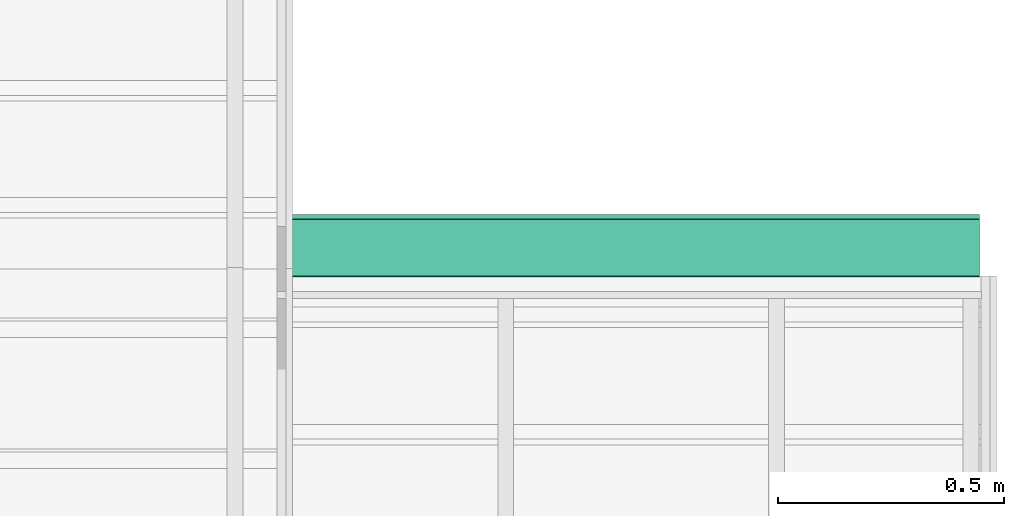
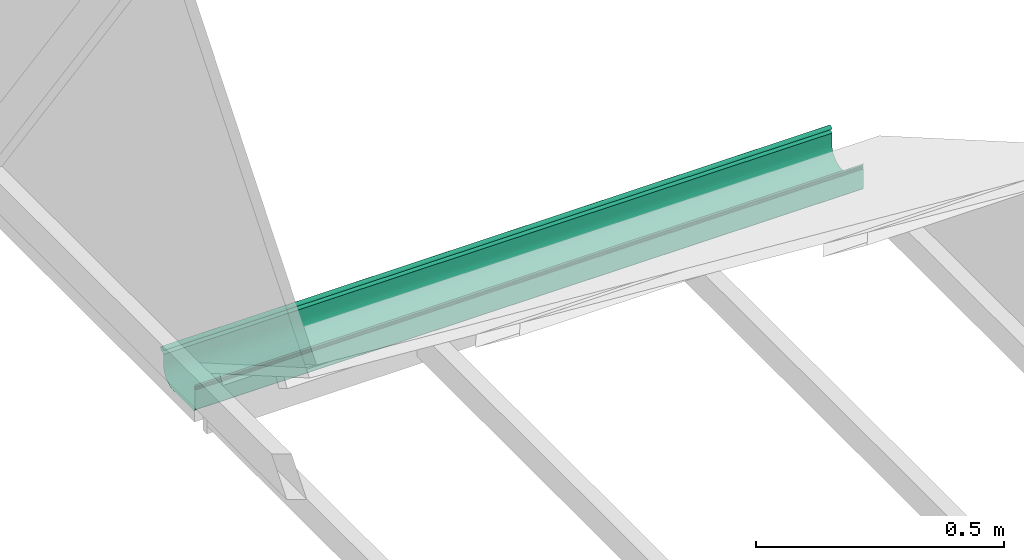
# One storey, part 12 of 12: 1 distribution element.
"""IFC2X3 building model written with IfcOpenShell, lengths in millimetres."""

import ifcopenshell
import ifcopenshell.guid

model = None  # the IFC model being written
_history = None  # IfcOwnerHistory: only IFC2X3 demands one
_inside = {}  # id of a spatial element -> (the spatial element, [elements in it])
_under = {}  # id of a project, library or spatial element -> (it, [spatial elements below it])
_declared = {}  # id of a project -> (the project, [libraries it declares])
_typed = {}  # id of a type object -> (the type object, [elements of that type])
_made_of = {}  # id of a material, layer set ... -> (it, [elements and type objects made of it])


def new_model(schema):
    """Start an empty IFC model of exactly this schema.

    Asked for "IFC4X3", IfcOpenShell would pick the latest addendum, in which some entities
    have other attributes; the version numbers below select the first issue.
    IFC2X3 requires an IfcOwnerHistory on every rooted entity: one is made here for all.
    """
    global model, _history
    if schema == "IFC4X3":
        model = ifcopenshell.file(schema_version=(4, 3, 0, 0))
    else:
        model = ifcopenshell.file(schema=schema)
    _inside.clear()
    _under.clear()
    _declared.clear()
    _typed.clear()
    _made_of.clear()
    _history = None
    if model.schema == "IFC2X3":
        org = make("IfcOrganization", Name="unknown")
        user = make(
            "IfcPersonAndOrganization",
            ThePerson=make("IfcPerson", FamilyName="unknown"),
            TheOrganization=org,
        )
        app = make(
            "IfcApplication",
            ApplicationDeveloper=org,
            Version="unknown",
            ApplicationFullName="unknown",
            ApplicationIdentifier="unknown",
        )
        _history = make(
            "IfcOwnerHistory",
            OwningUser=user,
            OwningApplication=app,
            ChangeAction="ADDED",
            CreationDate=0,
        )
    return model


def make(cls, **values):
    """One entity of the class cls with the attributes given. An attribute that is None is left unset."""
    return model.create_entity(
        cls, **{name: value for name, value in values.items() if value is not None}
    )


def entity(cls, *values):
    """Any entity or typed value of the class cls, its attributes in the order of the schema. None: left unset."""
    e = model.create_entity(cls)
    for i, value in enumerate(values):
        if value is not None:
            e[i] = value
    return e


def rooted(cls, **values):
    """An entity with a GlobalId (a new one), such as an element, a storey or a relation."""
    return make(cls, GlobalId=ifcopenshell.guid.new(), OwnerHistory=_history, **values)


def si_unit(unit_type, name, prefix=None):
    """IfcSIUnit, for example si_unit("LENGTHUNIT", "METRE", prefix="MILLI")."""
    return make("IfcSIUnit", UnitType=unit_type, Prefix=prefix, Name=name)


def converted_unit(unit_type, name, factor, base, dimensions=None, offset=None):
    """IfcConversionBasedUnit, such as the inch: factor (a typed value) times the base unit."""
    return make(
        "IfcConversionBasedUnit"
        if offset is None
        else "IfcConversionBasedUnitWithOffset",
        ConversionOffset=offset,
        Dimensions=None
        if dimensions is None
        else entity("IfcDimensionalExponents", *dimensions),
        UnitType=unit_type,
        Name=name,
        ConversionFactor=make(
            "IfcMeasureWithUnit", ValueComponent=factor, UnitComponent=base
        ),
    )


def money_unit(currency):
    """IfcMonetaryUnit."""
    return make("IfcMonetaryUnit", Currency=currency)


def assignment(units):
    """IfcUnitAssignment: the units of a project."""
    return None if units is None else make("IfcUnitAssignment", Units=units)


def point(xyz):
    """IfcCartesianPoint."""
    return None if xyz is None else make("IfcCartesianPoint", Coordinates=xyz)


def direction(xyz):
    """IfcDirection."""
    return None if xyz is None else make("IfcDirection", DirectionRatios=xyz)


def frame(location, z_axis=None, x_axis=None):
    """IfcAxis2Placement3D, a coordinate frame: its origin and axes. An axis left out is left unset."""
    return make(
        "IfcAxis2Placement3D",
        Location=point(location),
        Axis=direction(z_axis),
        RefDirection=direction(x_axis),
    )


def origin_with_axes():
    """The frame at (0, 0, 0) with the z axis (0, 0, 1) and the x axis (1, 0, 0) written out."""
    return frame((0.0, 0.0, 0.0), z_axis=(0.0, 0.0, 1.0), x_axis=(1.0, 0.0, 0.0))


def place(relative_to, where):
    """IfcLocalPlacement: puts the frame where relative to a parent placement (None: the world)."""
    return make(
        "IfcLocalPlacement", PlacementRelTo=relative_to, RelativePlacement=where
    )


def context(
    kind, dimensions, precision=None, world=None, true_north=None, identifier=None
):
    """IfcGeometricRepresentationContext, for example the 3D "Model" context."""
    return make(
        "IfcGeometricRepresentationContext",
        ContextIdentifier=identifier,
        ContextType=kind,
        CoordinateSpaceDimension=dimensions,
        Precision=precision,
        WorldCoordinateSystem=world,
        TrueNorth=true_north,
    )


def subcontext(parent, identifier, kind, view, scale=None):
    """IfcGeometricRepresentationSubContext, for example "Body" below "Model"."""
    return make(
        "IfcGeometricRepresentationSubContext",
        ContextIdentifier=identifier,
        ContextType=kind,
        ParentContext=parent,
        TargetScale=scale,
        TargetView=view,
    )


def project(units=None, contexts=None):
    """IfcProject with its units and contexts."""
    return rooted(
        "IfcProject",
        Name="project",
        RepresentationContexts=contexts,
        UnitsInContext=assignment(units),
    )


def spatial(cls, under=None, at=None, **own):
    """A site, building, storey or space (cls), placed at a placement, below another one or the project."""
    s = rooted(cls, ObjectPlacement=at, **own)
    if under is not None:
        _under.setdefault(under.id(), (under, []))[1].append(s)
    return s


def faces_of(points, faces, orient=None, outer=None):
    """IfcFace entities. A face is a list of loops; a loop is a list of indices into points, from 0.

    orient and outer hold one flag for each loop. By default every Orientation is true, the
    first loop of a face is its IfcFaceOuterBound and the others are IfcFaceBound.
    """
    made = []
    for i, loops in enumerate(faces):
        bounds = []
        for j, loop in enumerate(loops):
            is_outer = j == 0 if outer is None else outer[i][j]
            bounds.append(
                make(
                    "IfcFaceOuterBound" if is_outer else "IfcFaceBound",
                    Bound=make("IfcPolyLoop", Polygon=[points[k] for k in loop]),
                    Orientation=True if orient is None else orient[i][j],
                )
            )
        made.append(make("IfcFace", Bounds=bounds))
    return made


def open_shell(faces, orient=None, outer=None):
    """The faces of one IfcOpenShell. surface_model builds it on its shared points."""
    return ("IfcOpenShell", faces, orient, outer)


def surface_model(cls, points, shells):
    """IfcFaceBasedSurfaceModel or IfcShellBasedSurfaceModel (cls): surfaces that need not close."""
    shared = [point(p) for p in points]
    made = [make(c, CfsFaces=faces_of(shared, fs, o, b)) for c, fs, o, b in shells]
    if cls == "IfcFaceBasedSurfaceModel":
        return make(cls, FbsmFaces=made)
    return make(cls, SbsmBoundary=made)


def shape(context_of_items, identifier, shape_type, items):
    """IfcShapeRepresentation: the items that make up one representation, for example the "Body"."""
    return make(
        "IfcShapeRepresentation",
        ContextOfItems=context_of_items,
        RepresentationIdentifier=identifier,
        RepresentationType=shape_type,
        Items=items,
    )


def source(mapping_origin, context_of_items, identifier, shape_type, items):
    """IfcRepresentationMap: a shape defined once, which mapped items show again and again."""
    return make(
        "IfcRepresentationMap",
        MappingOrigin=mapping_origin,
        MappedRepresentation=shape(context_of_items, identifier, shape_type, items),
    )


def transform(
    local_origin,
    x_axis=None,
    y_axis=None,
    z_axis=None,
    scale=None,
    scale2=None,
    scale3=None,
    uniform=True,
):
    """IfcCartesianTransformationOperator3D, or its non-uniform kind. x_axis, y_axis, z_axis: its Axis1, 2, 3."""
    if uniform:
        return make(
            "IfcCartesianTransformationOperator3D",
            Axis1=direction(x_axis),
            Axis2=direction(y_axis),
            LocalOrigin=point(local_origin),
            Scale=scale,
            Axis3=direction(z_axis),
        )
    return make(
        "IfcCartesianTransformationOperator3DnonUniform",
        Axis1=direction(x_axis),
        Axis2=direction(y_axis),
        LocalOrigin=point(local_origin),
        Scale=scale,
        Axis3=direction(z_axis),
        Scale2=scale2,
        Scale3=scale3,
    )


def mapped(mapping_source, mapping_target):
    """IfcMappedItem: shows the shape of a source again, moved by a transform."""
    return make(
        "IfcMappedItem", MappingSource=mapping_source, MappingTarget=mapping_target
    )


def material(Name=None, Category=None):
    """IfcMaterial."""
    return make("IfcMaterial", Name=Name, Category=Category)


def made_of(thing, what):
    """Note that an element or type object is made of a material, layer set ...; save() writes the relation."""
    if what is not None:
        _made_of.setdefault(what.id(), (what, []))[1].append(thing)
    return thing


def type_object(cls, material=None, **own):
    """A type object (cls), such as IfcWallType, which elements share."""
    return made_of(rooted(cls, **own), material)


def element(
    cls,
    number,
    at=None,
    inside=None,
    cuts=None,
    type_object=None,
    material=None,
    context=None,
    identifier="Body",
    shape_type=None,
    held_by="IfcProductDefinitionShape",
    body=None,
    shapes=None,
    **own,
):
    """One element of the class cls, such as IfcWall. Its Tag is "e" and its number.

    at: its placement. inside: the storey or other place that contains it. cuts: it is an
    opening in that element (IfcRelVoidsElement). A single representation is given by context,
    identifier, shape_type and body (its items); several are given by shapes. held_by: the class
    of the entity that holds the representations. save() writes the other relations.
    """
    e = rooted(cls, Tag="e%d" % number, ObjectPlacement=at, **own)
    if body is not None:
        shapes = [shape(context, identifier, shape_type, body)]
    if shapes is not None:
        e.Representation = make(held_by, Representations=shapes)
    if inside is not None:
        _inside.setdefault(inside.id(), (inside, []))[1].append(e)
    if cuts is not None:
        rooted(
            "IfcRelVoidsElement", RelatingBuildingElement=cuts, RelatedOpeningElement=e
        )
    if type_object is not None:
        _typed.setdefault(type_object.id(), (type_object, []))[1].append(e)
    return made_of(e, material)


def aggregate(whole, parts):
    """IfcRelAggregates: a whole, such as a stair, and the parts it consists of."""
    return rooted("IfcRelAggregates", RelatingObject=whole, RelatedObjects=parts)


def save(model, path):
    """Write the relations noted so far, then the file.

    IfcRelAggregates (storeys below a building ...), IfcRelContainedInSpatialStructure (elements
    in a storey), IfcRelDefinesByType, IfcRelAssociatesMaterial and IfcRelDeclares: one each for
    every whole, place, type object, material and project.
    """
    for whole, parts in _under.values():
        aggregate(whole, parts)
    for where, things in _inside.values():
        rooted(
            "IfcRelContainedInSpatialStructure",
            RelatedElements=things,
            RelatingStructure=where,
        )
    for kind, things in _typed.values():
        rooted("IfcRelDefinesByType", RelatedObjects=things, RelatingType=kind)
    for what, things in _made_of.values():
        rooted("IfcRelAssociatesMaterial", RelatedObjects=things, RelatingMaterial=what)
    for by, libraries in _declared.values():
        rooted("IfcRelDeclares", RelatingContext=by, RelatedDefinitions=libraries)
    model.write(path)


model = new_model("IFC2X3")

# Units and contexts
model_context = context("Model", 3, precision=1e-05, world=origin_with_axes(), true_north=direction((0.0, 1.0)))
body_context = subcontext(model_context, "Body", "Model", "MODEL_VIEW")
ifc_project = project(units=[si_unit("LENGTHUNIT", "METRE", prefix="MILLI"), si_unit("AREAUNIT", "SQUARE_METRE"), si_unit("VOLUMEUNIT", "CUBIC_METRE"), converted_unit("PLANEANGLEUNIT", "DEGREE", entity("IfcPlaneAngleMeasure", 0.0174532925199), si_unit("PLANEANGLEUNIT", "RADIAN"), dimensions=[0, 0, 0, 0, 0, 0, 0]), si_unit("SOLIDANGLEUNIT", "STERADIAN"), money_unit("AUD"), si_unit("TIMEUNIT", "SECOND"), si_unit("MASSUNIT", "GRAM"), si_unit("THERMODYNAMICTEMPERATUREUNIT", "DEGREE_CELSIUS"), si_unit("LUMINOUSINTENSITYUNIT", "LUMEN")], contexts=[model_context])

# Site, building, storey
site_placement = place(None, origin_with_axes())
site = spatial("IfcSite", under=ifc_project, at=site_placement, Name="Lot 1. East Hills", CompositionType="ELEMENT")
building_placement = place(site_placement, origin_with_axes())
building = spatial("IfcBuilding", under=site, at=building_placement, Name="Proposed Units 7 & 8", CompositionType="ELEMENT")
storey_placement = place(building_placement, frame((0.0, 0.0, 8395.0), z_axis=(0.0, 0.0, 1.0), x_axis=(1.0, 0.0, 0.0)))
storey = spatial("IfcBuildingStorey", under=building, at=storey_placement, Name="Roof", CompositionType="ELEMENT", Elevation=8395.0)

# Distribution element
ifc_material = material(Name="50 %")
distribution_element_type = type_object("IfcDistributionElementType", Name="gutter")
shared_shape = source(origin_with_axes(), body_context, "Body", "SurfaceModel", [
    surface_model("IfcShellBasedSurfaceModel", [(-6.13357790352, 0.0, 67.9116959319), (-6.13357790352, 1557.7819425, 67.9116959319), (-6.08288717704, 1557.7819425, 67.9116959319), (-6.08288717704, 0.0, 67.9116959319), (-6.08288717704, 0.0, 67.9116959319), (-6.08288717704, 1557.7819425, 67.9116959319), (-7.00343076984, 1557.7819425, 67.8596961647), (-7.00343076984, 0.0, 67.8596961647), (-7.00343076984, 0.0, 67.8596961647), (-7.00343076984, 1557.7819425, 67.8596961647), (-7.90167044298, 1557.7819425, 67.6606970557), (-7.90167044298, 0.0, 67.6606970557), (-7.90167044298, 0.0, 67.6606970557), (-7.90167044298, 1557.7819425, 67.6606970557), (-8.75530227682, 1557.7819425, 67.3176985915), (-8.75530227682, 0.0, 67.3176985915), (-8.75530227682, 0.0, 67.3176985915), (-8.75530227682, 1557.7819425, 67.3176985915), (-9.53999472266, 1557.7819425, 66.8407007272), (-9.53999472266, 0.0, 66.8407007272), (-9.53999472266, 0.0, 66.8407007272), (-9.53999472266, 1557.7819425, 66.8407007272), (-10.2344576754, 1557.7819425, 66.2427034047), (-10.2344576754, 0.0, 66.2427034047), (-10.2344576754, 0.0, 66.2427034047), (-10.2344576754, 1557.7819425, 66.2427034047), (-10.8204424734, 1557.7819425, 65.5407065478), (-10.8204424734, 0.0, 65.5407065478), (-10.8204424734, 0.0, 65.5407065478), (-10.8204424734, 1557.7819425, 65.5407065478), (-11.2807142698, 1557.7819425, 64.752710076), (-11.2807142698, 0.0, 64.752710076), (-11.2807142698, 0.0, 64.752710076), (-11.2807142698, 1557.7819425, 64.752710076), (-11.6031072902, 1557.7819425, 63.9017138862), (-11.6031072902, 0.0, 63.9017138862), (-11.6031072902, 0.0, 63.9017138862), (-11.6031072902, 1557.7819425, 63.9017138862), (-11.6031072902, 1557.7819425, 37.9998298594), (-11.6031072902, 0.0, 37.9998298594), (-11.6031072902, 0.0, 37.9998298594), (-11.6031072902, 1557.7819425, 37.9998298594), (-12.1880782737, 1557.7819425, 31.4008594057), (-12.1880782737, 0.0, 31.4008594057), (-12.1880782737, 0.0, 31.4008594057), (-12.1880782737, 1557.7819425, 31.4008594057), (-13.9267701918, 1557.7819425, 25.002888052), (-13.9267701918, 0.0, 25.002888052), (-13.9267701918, 0.0, 25.002888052), (-13.9267701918, 1557.7819425, 25.002888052), (-16.7644370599, 1557.7819425, 18.9999149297), (-16.7644370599, 0.0, 18.9999149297), (-16.7644370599, 0.0, 18.9999149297), (-16.7644370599, 1557.7819425, 18.9999149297), (-20.6159184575, 1557.7819425, 13.573939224), (-20.6159184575, 0.0, 13.573939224), (-20.6159184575, 0.0, 13.573939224), (-20.6159184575, 1557.7819425, 13.573939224), (-25.3646257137, 1557.7819425, 8.88996019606), (-25.3646257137, 0.0, 8.88996019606), (-25.3646257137, 0.0, 8.88996019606), (-25.3646257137, 1557.7819425, 8.88996019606), (-30.8655833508, 1557.7819425, 5.09097720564), (-30.8655833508, 0.0, 5.09097720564), (-30.8655833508, 0.0, 5.09097720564), (-30.8655833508, 1557.7819425, 5.09097720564), (-36.9515119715, 1557.7819425, 2.29198973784), (-36.9515119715, 0.0, 2.29198973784), (-36.9515119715, 0.0, 2.29198973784), (-36.9515119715, 1557.7819425, 2.29198973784), (-43.4378973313, 1557.7819425, 0.576997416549), (-43.4378973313, 0.0, 0.576997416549), (-43.4378973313, 0.0, 0.576997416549), (-43.4378973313, 1557.7819425, 0.576997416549), (-50.1280594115, 1557.7819425, 0.0), (-50.1280594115, 0.0, 0.0), (-50.1280594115, 0.0, 0.0), (-50.1280594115, 1557.7819425, 0.0), (-131.684369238, 1557.7819425, 0.0), (-131.684369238, 0.0, 0.0), (-131.684369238, 0.0, 0.0), (-131.684369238, 1557.7819425, 0.0), (-132.917167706, 1557.7819425, 0.105999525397), (-132.917167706, 0.0, 0.105999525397), (-132.917167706, 0.0, 0.105999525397), (-132.917167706, 1557.7819425, 0.105999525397), (-134.111441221, 1557.7819425, 0.421998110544), (-134.111441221, 0.0, 0.421998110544), (-134.111441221, 0.0, 0.421998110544), (-134.111441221, 1557.7819425, 0.421998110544), (-135.232720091, 1557.7819425, 0.937995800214), (-135.232720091, 0.0, 0.937995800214), (-135.232720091, 0.0, 0.937995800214), (-135.232720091, 1557.7819425, 0.937995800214), (-136.24653462, 1557.7819425, 1.63799266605), (-136.24653462, 0.0, 1.63799266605), (-136.24653462, 0.0, 1.63799266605), (-136.24653462, 1557.7819425, 1.63799266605), (-137.120442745, 1557.7819425, 2.49998880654), (-137.120442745, 0.0, 2.49998880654), (-137.120442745, 0.0, 2.49998880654), (-137.120442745, 1557.7819425, 2.49998880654), (-137.830112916, 1557.7819425, 3.49998432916), (-137.830112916, 0.0, 3.49998432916), (-137.830112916, 0.0, 3.49998432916), (-137.830112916, 1557.7819425, 3.49998432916), (-138.353241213, 1557.7819425, 4.60597937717), (-138.353241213, 0.0, 4.60597937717), (-138.353241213, 0.0, 4.60597937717), (-138.353241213, 1557.7819425, 4.60597937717), (-138.673606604, 1557.7819425, 5.78397410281), (-138.673606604, 0.0, 5.78397410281), (-138.673606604, 0.0, 5.78397410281), (-138.673606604, 1557.7819425, 5.78397410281), (-138.781070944, 1557.7819425, 6.99996865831), (-138.781070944, 0.0, 6.99996865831), (-138.781070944, 0.0, 6.99996865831), (-138.781070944, 1557.7819425, 6.99996865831), (-138.784112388, 1557.7819425, 53.0037626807), (-138.784112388, 0.0, 53.0037626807), (-138.784112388, 0.0, 53.0037626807), (-138.784112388, 1557.7819425, 53.0037626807), (-138.758767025, 1557.7819425, 53.0037626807), (-138.758767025, 0.0, 53.0037626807), (-138.758767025, 0.0, 53.0037626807), (-138.758767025, 1557.7819425, 53.0037626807), (-138.406973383, 1557.7819425, 53.0337625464), (-138.406973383, 0.0, 53.0337625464), (-138.406973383, 0.0, 53.0337625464), (-138.406973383, 1557.7819425, 53.0337625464), (-138.066331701, 1557.7819425, 53.1237621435), (-138.066331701, 0.0, 53.1237621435), (-138.066331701, 0.0, 53.1237621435), (-138.066331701, 1557.7819425, 53.1237621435), (-137.74596631, 1557.7819425, 53.2707614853), (-137.74596631, 0.0, 53.2707614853), (-137.74596631, 0.0, 53.2707614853), (-137.74596631, 1557.7819425, 53.2707614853), (-137.457029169, 1557.7819425, 53.4707605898), (-137.457029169, 0.0, 53.4707605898), (-137.457029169, 0.0, 53.4707605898), (-137.457029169, 1557.7819425, 53.4707605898), (-137.20661698, 1557.7819425, 53.7167594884), (-137.20661698, 0.0, 53.7167594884), (-137.20661698, 0.0, 53.7167594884), (-137.20661698, 1557.7819425, 53.7167594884), (-137.004867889, 1557.7819425, 54.0027582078), (-137.004867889, 0.0, 54.0027582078), (-137.004867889, 0.0, 54.0027582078), (-137.004867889, 1557.7819425, 54.0027582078), (-136.854823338, 1557.7819425, 54.3177567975), (-136.854823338, 0.0, 54.3177567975), (-136.854823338, 0.0, 54.3177567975), (-136.854823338, 1557.7819425, 54.3177567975), (-136.763580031, 1557.7819425, 54.6547552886), (-136.763580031, 0.0, 54.6547552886), (-136.763580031, 0.0, 54.6547552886), (-136.763580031, 1557.7819425, 54.6547552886), (-136.733165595, 1557.7819425, 55.0017537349), (-136.733165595, 0.0, 55.0017537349), (-136.733165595, 0.0, 55.0017537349), (-136.733165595, 1557.7819425, 55.0017537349), (-136.763580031, 1557.7819425, 55.3487521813), (-136.763580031, 0.0, 55.3487521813), (-136.763580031, 0.0, 55.3487521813), (-136.763580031, 1557.7819425, 55.3487521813), (-136.854823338, 1557.7819425, 55.6847506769), (-136.854823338, 0.0, 55.6847506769), (-136.854823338, 0.0, 55.6847506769), (-136.854823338, 1557.7819425, 55.6847506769), (-137.004867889, 1557.7819425, 56.000749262), (-137.004867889, 0.0, 56.000749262), (-137.004867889, 0.0, 56.000749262), (-137.004867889, 1557.7819425, 56.000749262), (-137.20661698, 1557.7819425, 56.285747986), (-137.20661698, 0.0, 56.285747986), (-137.20661698, 0.0, 56.285747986), (-137.20661698, 1557.7819425, 56.285747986), (-137.457029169, 1557.7819425, 56.5327468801), (-137.457029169, 0.0, 56.5327468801), (-137.457029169, 0.0, 56.5327468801), (-137.457029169, 1557.7819425, 56.5327468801), (-137.74596631, 1557.7819425, 56.7317459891), (-137.74596631, 0.0, 56.7317459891), (-137.74596631, 0.0, 56.7317459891), (-137.74596631, 1557.7819425, 56.7317459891), (-138.066331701, 1557.7819425, 56.8797453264), (-138.066331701, 0.0, 56.8797453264), (-138.066331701, 0.0, 56.8797453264), (-138.066331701, 1557.7819425, 56.8797453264), (-138.406973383, 1557.7819425, 56.9697449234), (-138.406973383, 0.0, 56.9697449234), (-138.406973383, 0.0, 56.9697449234), (-138.406973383, 1557.7819425, 56.9697449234), (-138.758767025, 1557.7819425, 56.9997447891), (-138.758767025, 0.0, 56.9997447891), (-138.758767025, 0.0, 56.9997447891), (-138.758767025, 1557.7819425, 56.9997447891), (-138.781070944, 1557.7819425, 56.9997447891), (-138.781070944, 0.0, 56.9997447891), (-138.781070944, 0.0, 56.9997447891), (-138.781070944, 1557.7819425, 56.9997447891), (-138.785126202, 1557.7819425, 58.805736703), (-138.785126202, 0.0, 58.805736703), (-138.785126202, 0.0, 58.805736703), (-138.785126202, 1557.7819425, 58.805736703), (-138.700979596, 1557.7819425, 58.8047367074), (-138.700979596, 0.0, 58.8047367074), (-138.700979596, 0.0, 58.8047367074), (-138.700979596, 1557.7819425, 58.8047367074), (-138.349185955, 1557.7819425, 58.8347365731), (-138.349185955, 0.0, 58.8347365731), (-138.349185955, 0.0, 58.8347365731), (-138.349185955, 1557.7819425, 58.8347365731), (-138.008544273, 1557.7819425, 58.9247361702), (-138.008544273, 0.0, 58.9247361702), (-138.008544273, 0.0, 58.9247361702), (-138.008544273, 1557.7819425, 58.9247361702), (-137.689192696, 1557.7819425, 59.071735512), (-137.689192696, 0.0, 59.071735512), (-137.689192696, 0.0, 59.071735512), (-137.689192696, 1557.7819425, 59.071735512), (-137.40126937, 1557.7819425, 59.270734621), (-137.40126937, 0.0, 59.270734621), (-137.40126937, 0.0, 59.270734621), (-137.40126937, 1557.7819425, 59.270734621), (-137.151870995, 1557.7819425, 59.5167335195), (-137.151870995, 0.0, 59.5167335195), (-137.151870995, 0.0, 59.5167335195), (-137.151870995, 1557.7819425, 59.5167335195), (-136.949108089, 1557.7819425, 59.8017322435), (-136.949108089, 0.0, 59.8017322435), (-136.949108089, 0.0, 59.8017322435), (-136.949108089, 1557.7819425, 59.8017322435), (-136.800077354, 1557.7819425, 60.1167308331), (-136.800077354, 0.0, 60.1167308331), (-136.800077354, 0.0, 60.1167308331), (-136.800077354, 1557.7819425, 60.1167308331), (-136.708834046, 1557.7819425, 60.4527293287), (-136.708834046, 0.0, 60.4527293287), (-136.708834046, 0.0, 60.4527293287), (-136.708834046, 1557.7819425, 60.4527293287), (-136.67841961, 1557.7819425, 60.7987277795), (-136.67841961, 0.0, 60.7987277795), (-136.67841961, 0.0, 60.7987277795), (-136.67841961, 1557.7819425, 60.7987277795), (-136.708834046, 1557.7819425, 61.1447262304), (-136.708834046, 0.0, 61.1447262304), (-136.708834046, 0.0, 61.1447262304), (-136.708834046, 1557.7819425, 61.1447262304), (-136.800077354, 1557.7819425, 61.480724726), (-136.800077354, 0.0, 61.480724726), (-136.800077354, 0.0, 61.480724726), (-136.800077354, 1557.7819425, 61.480724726), (-136.949108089, 1557.7819425, 61.7957233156), (-136.949108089, 0.0, 61.7957233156), (-136.949108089, 0.0, 61.7957233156), (-136.949108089, 1557.7819425, 61.7957233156), (-137.151870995, 1557.7819425, 62.0807220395), (-137.151870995, 0.0, 62.0807220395), (-137.151870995, 0.0, 62.0807220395), (-137.151870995, 1557.7819425, 62.0807220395), (-137.40126937, 1557.7819425, 62.3267209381), (-137.40126937, 0.0, 62.3267209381), (-137.40126937, 0.0, 62.3267209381), (-137.40126937, 1557.7819425, 62.3267209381), (-137.689192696, 1557.7819425, 62.5257200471), (-137.689192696, 0.0, 62.5257200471), (-137.689192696, 0.0, 62.5257200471), (-137.689192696, 1557.7819425, 62.5257200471), (-138.008544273, 1557.7819425, 62.6727193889), (-138.008544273, 0.0, 62.6727193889), (-138.008544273, 0.0, 62.6727193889), (-138.008544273, 1557.7819425, 62.6727193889), (-138.349185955, 1557.7819425, 62.762718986), (-138.349185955, 0.0, 62.762718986), (-138.349185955, 0.0, 62.762718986), (-138.349185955, 1557.7819425, 62.762718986), (-138.700979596, 1557.7819425, 62.7927188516), (-138.700979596, 0.0, 62.7927188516), (-138.700979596, 0.0, 62.7927188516), (-138.700979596, 1557.7819425, 62.7927188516), (-138.784112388, 1557.7819425, 62.7917188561), (-138.784112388, 0.0, 62.7917188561), (-138.784112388, 0.0, 62.7917188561), (-138.784112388, 1557.7819425, 62.7917188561), (-138.786140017, 1557.7819425, 65.9997044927), (-138.786140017, 0.0, 65.9997044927)], [open_shell([[[0, 1, 2, 3]], [[4, 5, 1, 0]], [[3, 2, 6, 7]], [[8, 9, 5, 4]], [[7, 6, 10, 11]], [[12, 13, 9, 8]], [[11, 10, 14, 15]], [[16, 17, 13, 12]], [[15, 14, 18, 19]], [[20, 21, 17, 16]], [[19, 18, 22, 23]], [[24, 25, 21, 20]], [[23, 22, 26, 27]], [[28, 29, 25, 24]], [[27, 26, 30, 31]], [[32, 33, 29, 28]], [[31, 30, 34, 35]], [[36, 37, 33, 32]], [[35, 34, 38, 39]], [[40, 41, 37, 36]], [[39, 38, 42, 43]], [[44, 45, 41, 40]], [[43, 42, 46, 47]], [[48, 49, 45, 44]], [[47, 46, 50, 51]], [[52, 53, 49, 48]], [[51, 50, 54, 55]], [[56, 57, 53, 52]], [[55, 54, 58, 59]], [[60, 61, 57, 56]], [[59, 58, 62, 63]], [[64, 65, 61, 60]], [[63, 62, 66, 67]], [[68, 69, 65, 64]], [[67, 66, 70, 71]], [[72, 73, 69, 68]], [[71, 70, 74, 75]], [[76, 77, 73, 72]], [[75, 74, 78, 79]], [[80, 81, 77, 76]], [[79, 78, 82, 83]], [[84, 85, 81, 80]], [[83, 82, 86, 87]], [[88, 89, 85, 84]], [[87, 86, 90, 91]], [[92, 93, 89, 88]], [[91, 90, 94, 95]], [[96, 97, 93, 92]], [[95, 94, 98, 99]], [[100, 101, 97, 96]], [[99, 98, 102, 103]], [[104, 105, 101, 100]], [[103, 102, 106, 107]], [[108, 109, 105, 104]], [[107, 106, 110, 111]], [[112, 113, 109, 108]], [[111, 110, 114, 115]], [[116, 117, 113, 112]], [[115, 114, 118, 119]], [[120, 121, 117, 116]], [[119, 118, 122, 123]], [[124, 125, 121, 120]], [[123, 122, 126, 127]], [[128, 129, 125, 124]], [[127, 126, 130, 131]], [[132, 133, 129, 128]], [[131, 130, 134, 135]], [[136, 137, 133, 132]], [[135, 134, 138, 139]], [[140, 141, 137, 136]], [[139, 138, 142, 143]], [[144, 145, 141, 140]], [[143, 142, 146, 147]], [[148, 149, 145, 144]], [[147, 146, 150, 151]], [[152, 153, 149, 148]], [[151, 150, 154, 155]], [[156, 157, 153, 152]], [[155, 154, 158, 159]], [[160, 161, 157, 156]], [[159, 158, 162, 163]], [[164, 165, 161, 160]], [[163, 162, 166, 167]], [[168, 169, 165, 164]], [[167, 166, 170, 171]], [[172, 173, 169, 168]], [[171, 170, 174, 175]], [[176, 177, 173, 172]], [[175, 174, 178, 179]], [[180, 181, 177, 176]], [[179, 178, 182, 183]], [[184, 185, 181, 180]], [[183, 182, 186, 187]], [[188, 189, 185, 184]], [[187, 186, 190, 191]], [[192, 193, 189, 188]], [[191, 190, 194, 195]], [[196, 197, 193, 192]], [[195, 194, 198, 199]], [[200, 201, 197, 196]], [[199, 198, 202, 203]], [[204, 205, 201, 200]], [[203, 202, 206, 207]], [[208, 209, 205, 204]], [[207, 206, 210, 211]], [[212, 213, 209, 208]], [[211, 210, 214, 215]], [[216, 217, 213, 212]], [[215, 214, 218, 219]], [[220, 221, 217, 216]], [[219, 218, 222, 223]], [[224, 225, 221, 220]], [[223, 222, 226, 227]], [[228, 229, 225, 224]], [[227, 226, 230, 231]], [[232, 233, 229, 228]], [[231, 230, 234, 235]], [[236, 237, 233, 232]], [[235, 234, 238, 239]], [[240, 241, 237, 236]], [[239, 238, 242, 243]], [[244, 245, 241, 240]], [[243, 242, 246, 247]], [[248, 249, 245, 244]], [[247, 246, 250, 251]], [[252, 253, 249, 248]], [[251, 250, 254, 255]], [[256, 257, 253, 252]], [[255, 254, 258, 259]], [[260, 261, 257, 256]], [[259, 258, 262, 263]], [[264, 265, 261, 260]], [[263, 262, 266, 267]], [[268, 269, 265, 264]], [[267, 266, 270, 271]], [[272, 273, 269, 268]], [[271, 270, 274, 275]], [[276, 277, 273, 272]], [[275, 274, 278, 279]], [[280, 281, 277, 276]], [[279, 278, 282, 283]], [[284, 285, 281, 280]], [[283, 282, 286, 287]], [[287, 286, 285, 284]]])]),
    surface_model("IfcShellBasedSurfaceModel", [(-12.1657743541, 0.0, 73.9116690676), (-12.1657743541, 1557.7819425, 73.9116690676), (-12.0735172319, 1557.7819425, 74.9536644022), (-12.0735172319, 0.0, 74.9536644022), (-12.0735172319, 0.0, 74.9536644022), (-12.0735172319, 1557.7819425, 74.9536644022), (-11.7987734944, 1557.7819425, 75.96365988), (-11.7987734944, 0.0, 75.96365988), (-11.7987734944, 0.0, 75.96365988), (-11.7987734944, 1557.7819425, 75.96365988), (-11.3506674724, 1557.7819425, 76.9116556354), (-11.3506674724, 0.0, 76.9116556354), (-11.3506674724, 0.0, 76.9116556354), (-11.3506674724, 1557.7819425, 76.9116556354), (-10.7423787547, 1557.7819425, 77.7676518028), (-10.7423787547, 0.0, 77.7676518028), (-10.7423787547, 0.0, 77.7676518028), (-10.7423787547, 1557.7819425, 77.7676518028), (-9.99316981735, 1557.7819425, 78.5076484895), (-9.99316981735, 0.0, 78.5076484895), (-9.99316981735, 0.0, 78.5076484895), (-9.99316981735, 1557.7819425, 78.5076484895), (-9.12433076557, 1557.7819425, 79.1076458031), (-9.12433076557, 0.0, 79.1076458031), (-9.12433076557, 0.0, 79.1076458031), (-9.12433076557, 1557.7819425, 79.1076458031), (-8.16323459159, 1557.7819425, 79.5496438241), (-8.16323459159, 0.0, 79.5496438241), (-8.16323459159, 0.0, 79.5496438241), (-8.16323459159, 1557.7819425, 79.5496438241), (-7.13928191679, 1557.7819425, 79.8196426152), (-7.13928191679, 0.0, 79.8196426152), (-7.13928191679, 0.0, 79.8196426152), (-7.13928191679, 1557.7819425, 79.8196426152), (-6.08288717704, 1557.7819425, 79.9116422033), (-6.08288717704, 0.0, 79.9116422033), (-6.08288717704, 0.0, 79.9116422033), (-6.08288717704, 1557.7819425, 79.9116422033), (-5.0264924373, 1557.7819425, 79.8196426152), (-5.0264924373, 0.0, 79.8196426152), (-5.0264924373, 0.0, 79.8196426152), (-5.0264924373, 1557.7819425, 79.8196426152), (-4.00253976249, 1557.7819425, 79.5496438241), (-4.00253976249, 0.0, 79.5496438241), (-4.00253976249, 0.0, 79.5496438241), (-4.00253976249, 1557.7819425, 79.5496438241), (-3.04144358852, 1557.7819425, 79.1076458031), (-3.04144358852, 0.0, 79.1076458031), (-3.04144358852, 0.0, 79.1076458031), (-3.04144358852, 1557.7819425, 79.1076458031), (-2.17260453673, 1557.7819425, 78.5076484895), (-2.17260453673, 0.0, 78.5076484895), (-2.17260453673, 0.0, 78.5076484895), (-2.17260453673, 1557.7819425, 78.5076484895), (-1.42339559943, 1557.7819425, 77.7676518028), (-1.42339559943, 0.0, 77.7676518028), (-1.42339559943, 0.0, 77.7676518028), (-1.42339559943, 1557.7819425, 77.7676518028), (-0.815106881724, 1557.7819425, 76.9116556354), (-0.815106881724, 0.0, 76.9116556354), (-0.815106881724, 0.0, 76.9116556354), (-0.815106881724, 1557.7819425, 76.9116556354), (-0.367000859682, 1557.7819425, 75.96365988), (-0.367000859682, 0.0, 75.96365988), (-0.367000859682, 0.0, 75.96365988), (-0.367000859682, 1557.7819425, 75.96365988), (-0.0922571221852, 1557.7819425, 74.9536644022), (-0.0922571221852, 0.0, 74.9536644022), (-0.0922571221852, 0.0, 74.9536644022), (-0.0922571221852, 1557.7819425, 74.9536644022), (0.0, 1557.7819425, 73.9116690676), (0.0, 0.0, 73.9116690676), (0.0, 0.0, 73.9116690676), (0.0, 1557.7819425, 73.9116690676), (-0.0922571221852, 1557.7819425, 72.869673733), (-0.0922571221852, 0.0, 72.869673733), (-0.0922571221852, 0.0, 72.869673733), (-0.0922571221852, 1557.7819425, 72.869673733), (-0.367000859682, 1557.7819425, 71.8596782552), (-0.367000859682, 0.0, 71.8596782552), (-0.367000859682, 0.0, 71.8596782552), (-0.367000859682, 1557.7819425, 71.8596782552), (-0.815106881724, 1557.7819425, 70.9116824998), (-0.815106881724, 0.0, 70.9116824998), (-0.815106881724, 0.0, 70.9116824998), (-0.815106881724, 1557.7819425, 70.9116824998), (-1.42339559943, 1557.7819425, 70.0546863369), (-1.42339559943, 0.0, 70.0546863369), (-1.42339559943, 0.0, 70.0546863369), (-1.42339559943, 1557.7819425, 70.0546863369), (-2.17260453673, 1557.7819425, 69.3146896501), (-2.17260453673, 0.0, 69.3146896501), (-2.17260453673, 0.0, 69.3146896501), (-2.17260453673, 1557.7819425, 69.3146896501), (-3.04144358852, 1557.7819425, 68.7146923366), (-3.04144358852, 0.0, 68.7146923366), (-3.04144358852, 0.0, 68.7146923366), (-3.04144358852, 1557.7819425, 68.7146923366), (-4.00253976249, 1557.7819425, 68.2726943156), (-4.00253976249, 0.0, 68.2726943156), (-4.00253976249, 0.0, 68.2726943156), (-4.00253976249, 1557.7819425, 68.2726943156), (-5.0264924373, 1557.7819425, 68.0026955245), (-5.0264924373, 0.0, 68.0026955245), (-5.0264924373, 0.0, 68.0026955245), (-5.0264924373, 1557.7819425, 68.0026955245), (-6.08288717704, 1557.7819425, 67.9116959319), (-6.08288717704, 0.0, 67.9116959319)], [open_shell([[[0, 1, 2, 3]], [[4, 5, 1, 0]], [[3, 2, 6, 7]], [[8, 9, 5, 4]], [[7, 6, 10, 11]], [[12, 13, 9, 8]], [[11, 10, 14, 15]], [[16, 17, 13, 12]], [[15, 14, 18, 19]], [[20, 21, 17, 16]], [[19, 18, 22, 23]], [[24, 25, 21, 20]], [[23, 22, 26, 27]], [[28, 29, 25, 24]], [[27, 26, 30, 31]], [[32, 33, 29, 28]], [[31, 30, 34, 35]], [[36, 37, 33, 32]], [[35, 34, 38, 39]], [[40, 41, 37, 36]], [[39, 38, 42, 43]], [[44, 45, 41, 40]], [[43, 42, 46, 47]], [[48, 49, 45, 44]], [[47, 46, 50, 51]], [[52, 53, 49, 48]], [[51, 50, 54, 55]], [[56, 57, 53, 52]], [[55, 54, 58, 59]], [[60, 61, 57, 56]], [[59, 58, 62, 63]], [[64, 65, 61, 60]], [[63, 62, 66, 67]], [[68, 69, 65, 64]], [[67, 66, 70, 71]], [[72, 73, 69, 68]], [[71, 70, 74, 75]], [[76, 77, 73, 72]], [[75, 74, 78, 79]], [[80, 81, 77, 76]], [[79, 78, 82, 83]], [[84, 85, 81, 80]], [[83, 82, 86, 87]], [[88, 89, 85, 84]], [[87, 86, 90, 91]], [[92, 93, 89, 88]], [[91, 90, 94, 95]], [[96, 97, 93, 92]], [[95, 94, 98, 99]], [[100, 101, 97, 96]], [[99, 98, 102, 103]], [[104, 105, 101, 100]], [[103, 102, 106, 107]], [[107, 106, 105, 104]]])]),
])
distribution_element_placement = place(storey_placement, frame((17387.7819425, 3721.77376024, -162.544740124), z_axis=(0.0, 0.0, 1.0), x_axis=(0.0, 1.0, 0.0)))
element("IfcDistributionElement", 1, at=distribution_element_placement, inside=storey, type_object=distribution_element_type, material=ifc_material, Name="CEL-MOD-G20 - gutter - object -", context=body_context, shape_type="MappedRepresentation", body=[
    mapped(shared_shape, transform((0.0, 0.0, 0.0))),
])

save(model, "model.ifc")
